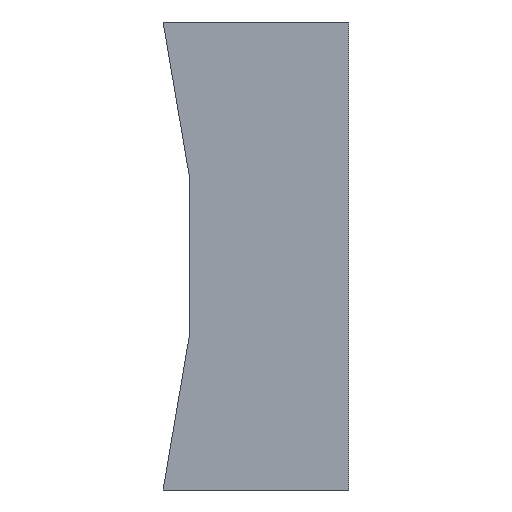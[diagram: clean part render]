
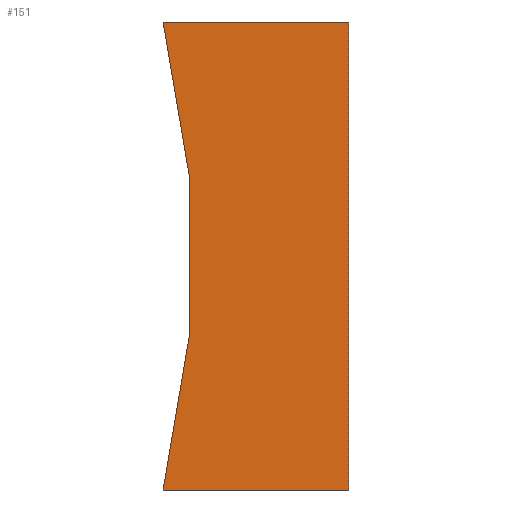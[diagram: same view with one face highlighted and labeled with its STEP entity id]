
A CAD part, left-side view. The second image highlights one B-rep face of the part: STEP entity #151.
In plain terms, the highlighted planar face has unit normal (-1, 0, 0).
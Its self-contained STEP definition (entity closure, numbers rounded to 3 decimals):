
#35=DIRECTION('',(0.,-1.,0.));
#36=VECTOR('',#35,2.381);
#37=CARTESIAN_POINT('',(-49.,-11.619,3.));
#38=LINE('',#37,#36);
#39=DIRECTION('',(0.,0.,-1.));
#40=VECTOR('',#39,6.);
#41=CARTESIAN_POINT('',(-49.,-14.,3.));
#42=LINE('',#41,#40);
#43=DIRECTION('',(0.,1.,0.));
#44=VECTOR('',#43,2.381);
#45=CARTESIAN_POINT('',(-49.,-14.,-3.));
#46=LINE('',#45,#44);
#47=CARTESIAN_POINT('',(-49.,0.,0.));
#48=DIRECTION('',(-1.,0.,0.));
#49=DIRECTION('',(0.,-0.968,-0.25));
#50=AXIS2_PLACEMENT_3D('',#47,#48,#49);
#60=CARTESIAN_POINT('',(-49.,-11.619,3.));
#61=CARTESIAN_POINT('',(-49.,-14.,3.));
#62=VERTEX_POINT('',#60);
#63=VERTEX_POINT('',#61);
#64=CARTESIAN_POINT('',(-49.,-14.,-3.));
#65=VERTEX_POINT('',#64);
#66=CARTESIAN_POINT('',(-49.,-11.619,-3.));
#67=VERTEX_POINT('',#66);
#140=CARTESIAN_POINT('',(-49.,0.,0.));
#141=DIRECTION('',(1.,0.,0.));
#142=DIRECTION('',(0.,0.,-1.));
#143=AXIS2_PLACEMENT_3D('',#140,#141,#142);
#144=PLANE('',#143);
#145=ORIENTED_EDGE('',*,*,#92,.T.);
#146=ORIENTED_EDGE('',*,*,#107,.T.);
#147=ORIENTED_EDGE('',*,*,#121,.T.);
#148=ORIENTED_EDGE('',*,*,#134,.T.);
#149=EDGE_LOOP('',(#145,#146,#147,#148));
#150=FACE_OUTER_BOUND('',#149,.F.);
#151=ADVANCED_FACE('',(#150),#144,.F.);
#51=CIRCLE('',#50,12.);
#92=EDGE_CURVE('',#62,#63,#38,.T.);
#107=EDGE_CURVE('',#63,#65,#42,.T.);
#121=EDGE_CURVE('',#65,#67,#46,.T.);
#134=EDGE_CURVE('',#67,#62,#51,.T.);
